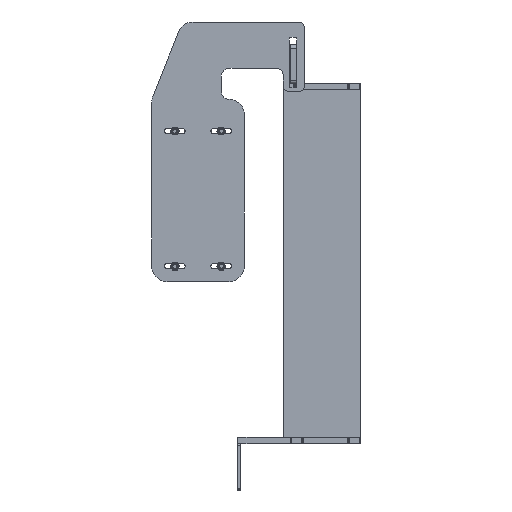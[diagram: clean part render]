
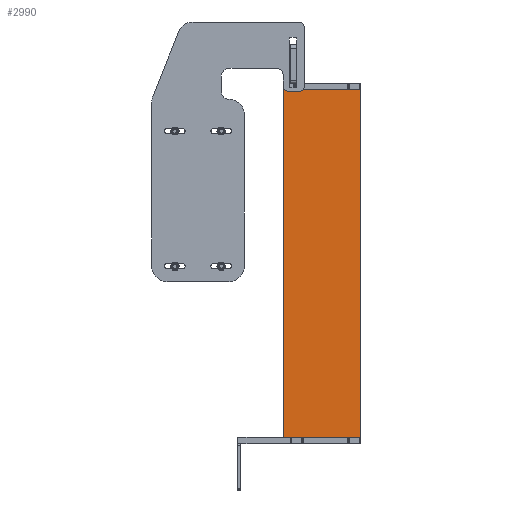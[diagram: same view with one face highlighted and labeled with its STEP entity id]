
A CAD part, left-side view. The second image highlights one B-rep face of the part: STEP entity #2990.
In plain terms, the highlighted planar face has unit normal (-1, 0, 0) as drawn and (0, 0, 1) by its records, which use the part's own axes.
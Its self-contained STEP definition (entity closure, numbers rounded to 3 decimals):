
#217=PLANE('',#3394);
#333=FACE_OUTER_BOUND('',#495,.T.);
#495=EDGE_LOOP('',(#2366,#2367,#2368,#2369,#2370,#2371,#2372,#2373));
#728=LINE('',#4911,#996);
#734=LINE('',#4926,#1002);
#736=LINE('',#4932,#1004);
#737=LINE('',#4934,#1005);
#996=VECTOR('',#3964,10.);
#1002=VECTOR('',#3980,10.);
#1004=VECTOR('',#3988,10.);
#1005=VECTOR('',#3991,10.);
#1200=CIRCLE('',#3378,1.);
#1205=CIRCLE('',#3386,1.);
#1206=CIRCLE('',#3388,1.);
#1207=CIRCLE('',#3391,1.);
#1402=VERTEX_POINT('',#4887);
#1403=VERTEX_POINT('',#4888);
#1412=VERTEX_POINT('',#4910);
#1413=VERTEX_POINT('',#4914);
#1414=VERTEX_POINT('',#4918);
#1415=VERTEX_POINT('',#4919);
#1416=VERTEX_POINT('',#4924);
#1417=VERTEX_POINT('',#4928);
#1738=EDGE_CURVE('',#1402,#1403,#1200,.T.);
#1749=EDGE_CURVE('',#1403,#1412,#728,.T.);
#1751=EDGE_CURVE('',#1412,#1413,#1205,.T.);
#1753=EDGE_CURVE('',#1414,#1415,#1206,.T.);
#1757=EDGE_CURVE('',#1416,#1414,#734,.T.);
#1758=EDGE_CURVE('',#1417,#1416,#1207,.T.);
#1760=EDGE_CURVE('',#1415,#1402,#736,.T.);
#1761=EDGE_CURVE('',#1413,#1417,#737,.T.);
#2366=ORIENTED_EDGE('',*,*,#1738,.F.);
#2367=ORIENTED_EDGE('',*,*,#1760,.F.);
#2368=ORIENTED_EDGE('',*,*,#1753,.F.);
#2369=ORIENTED_EDGE('',*,*,#1757,.F.);
#2370=ORIENTED_EDGE('',*,*,#1758,.F.);
#2371=ORIENTED_EDGE('',*,*,#1761,.F.);
#2372=ORIENTED_EDGE('',*,*,#1751,.F.);
#2373=ORIENTED_EDGE('',*,*,#1749,.F.);
#2990=ADVANCED_FACE('',(#333),#217,.T.);
#3378=AXIS2_PLACEMENT_3D('',#4889,#3944,#3945);
#3386=AXIS2_PLACEMENT_3D('',#4915,#3968,#3969);
#3388=AXIS2_PLACEMENT_3D('',#4920,#3973,#3974);
#3391=AXIS2_PLACEMENT_3D('',#4929,#3983,#3984);
#3394=AXIS2_PLACEMENT_3D('',#4935,#3992,#3993);
#3944=DIRECTION('center_axis',(0.,0.,-1.));
#3945=DIRECTION('ref_axis',(-0.707,0.707,0.));
#3964=DIRECTION('',(1.,0.,0.));
#3968=DIRECTION('center_axis',(0.,0.,-1.));
#3969=DIRECTION('ref_axis',(0.707,0.707,0.));
#3973=DIRECTION('center_axis',(0.,0.,-1.));
#3974=DIRECTION('ref_axis',(-0.707,-0.707,0.));
#3980=DIRECTION('',(-1.,0.,0.));
#3983=DIRECTION('center_axis',(0.,0.,-1.));
#3984=DIRECTION('ref_axis',(0.707,-0.707,0.));
#3988=DIRECTION('',(0.,1.,0.));
#3991=DIRECTION('',(0.,-1.,0.));
#3992=DIRECTION('center_axis',(0.,0.,1.));
#3993=DIRECTION('ref_axis',(1.,0.,0.));
#4887=CARTESIAN_POINT('',(0.,449.,8.));
#4888=CARTESIAN_POINT('',(1.,450.,8.));
#4889=CARTESIAN_POINT('Origin',(1.,449.,8.));
#4910=CARTESIAN_POINT('',(99.,450.,8.));
#4911=CARTESIAN_POINT('',(100.,450.,8.));
#4914=CARTESIAN_POINT('',(100.,449.,8.));
#4915=CARTESIAN_POINT('Origin',(99.,449.,8.));
#4918=CARTESIAN_POINT('',(1.,0.,8.));
#4919=CARTESIAN_POINT('',(0.,1.,8.));
#4920=CARTESIAN_POINT('Origin',(1.,1.,8.));
#4924=CARTESIAN_POINT('',(99.,0.,8.));
#4926=CARTESIAN_POINT('',(0.,0.,8.));
#4928=CARTESIAN_POINT('',(100.,1.,8.));
#4929=CARTESIAN_POINT('Origin',(99.,1.,8.));
#4932=CARTESIAN_POINT('',(0.,450.,8.));
#4934=CARTESIAN_POINT('',(100.,0.,8.));
#4935=CARTESIAN_POINT('Origin',(50.,225.,8.));
